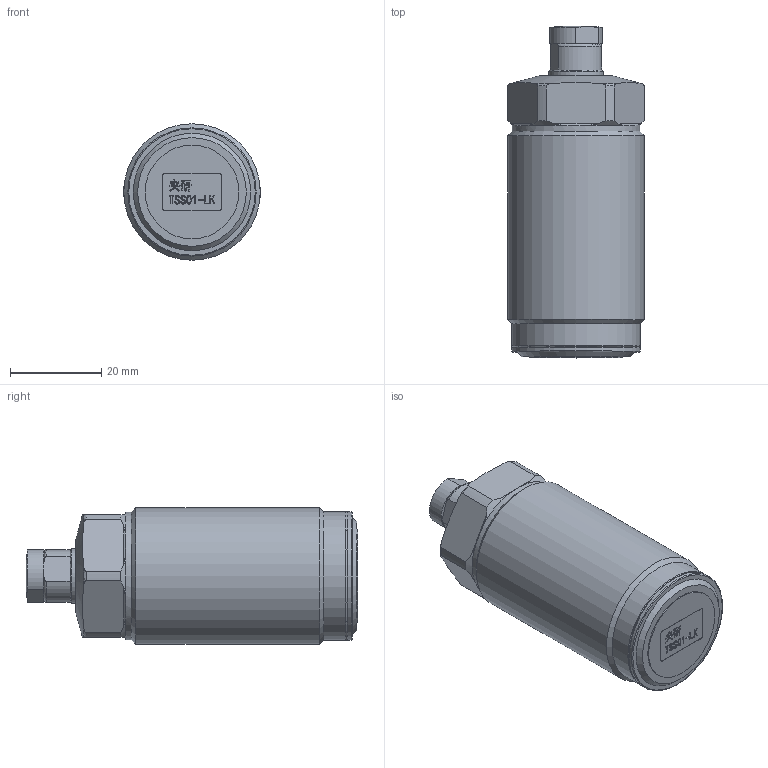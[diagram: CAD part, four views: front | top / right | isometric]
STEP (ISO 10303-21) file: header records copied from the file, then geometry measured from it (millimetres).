
FILE_DESCRIPTION(/* description */ (''),/* implementation_level */ '2;1');
FILE_NAME(/* name */ 'TSS01-LK.stp',/* time_stamp */ '2022-05-04T14:46:06+08:00',/* author */ (''),/* organization */ (''),/* preprocessor_version */ 'ST-DEVELOPER v16.7',/* originating_system */ 'SIEMENS PLM Software NX 12.0',/* authorisation */ '');
FILE_SCHEMA (('AUTOMOTIVE_DESIGN { 1 0 10303 214 3 1 1 1 }'));
Length unit declared in the file: millimetre
Products named in the file (1): TSS01-LK
Bounding box: 30 x 72.94 x 30 mm (x, y, z)
Volume: 42293.2 mm3; surface area: 10055.3 mm2
Topology: 3 solids, 3 shells, 258 faces, 666 edges, 437 vertices
Faces by surface type: plane 134, extrusion 62, cylinder 32, torus 15, cone 14, sphere 1
Full cylindrical faces by diameter (mm): 4.3 x1, 6 x1, 8 x2, 8.3 x1, 12 x2, 20.58 x1, 28 x1, 28.2 x2, 30 x1
Entity records: 10162 total; most frequent: CARTESIAN_POINT 3004, ORIENTED_EDGE 1268, DIRECTION 994, EDGE_CURVE 634, VECTOR 440, VERTEX_POINT 434, LINE 378, EDGE_LOOP 310
